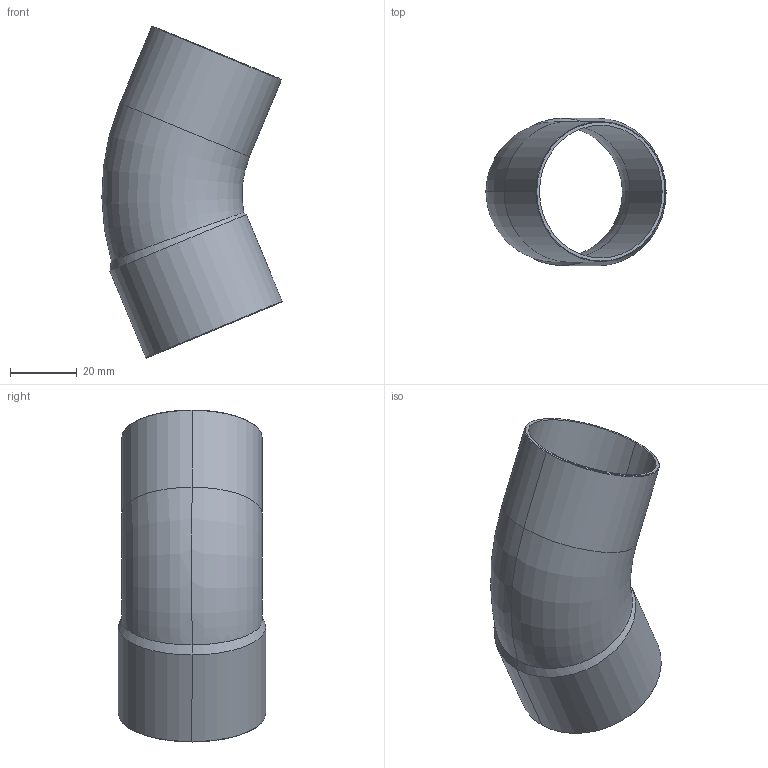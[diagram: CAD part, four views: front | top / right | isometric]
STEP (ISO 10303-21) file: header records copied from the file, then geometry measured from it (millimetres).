
FILE_DESCRIPTION((''),'2;1');
FILE_NAME('P:\Bouwmaten\z-maattekeningen 3D\5000\5040\1504042.stp','2005-10-05T11:42:27',('Kris'),(''),'Autodesk Inventor 8','Autodesk Inventor 8','');
FILE_SCHEMA(('AUTOMOTIVE_DESIGN { 1 0 10303 214 1 1 1 1 }'));
Length unit declared in the file: millimetre
Products named in the file (1): 1504042
Bounding box: 54.02 x 44.2 x 99.49 mm (x, y, z)
Volume: 12665.7 mm3; surface area: 23286.2 mm2
Topology: 1 solids, 1 shells, 24 faces, 50 edges, 28 vertices
Faces by surface type: cone 10, cylinder 8, torus 4, plane 2
Entity records: 729 total; most frequent: CARTESIAN_POINT 179, DIRECTION 124, ORIENTED_EDGE 100, AXIS2_PLACEMENT_3D 53, EDGE_CURVE 50, VERTEX_POINT 28, CIRCLE 28, EDGE_LOOP 26
